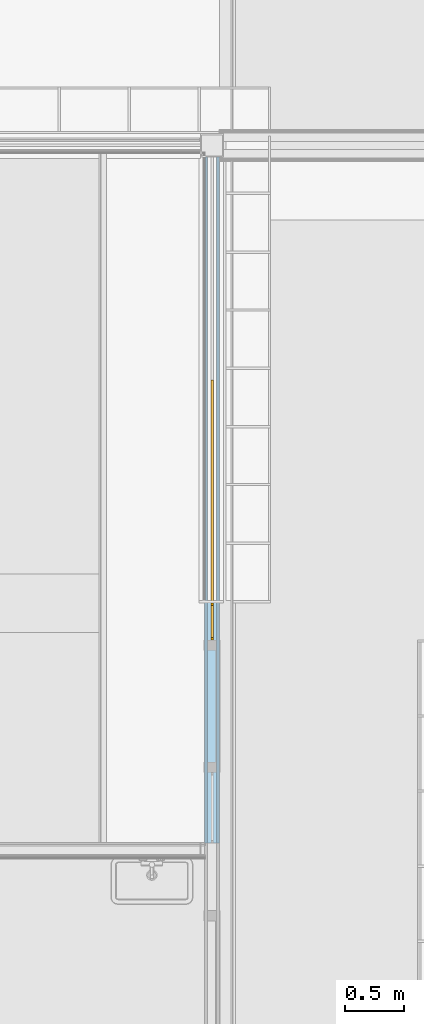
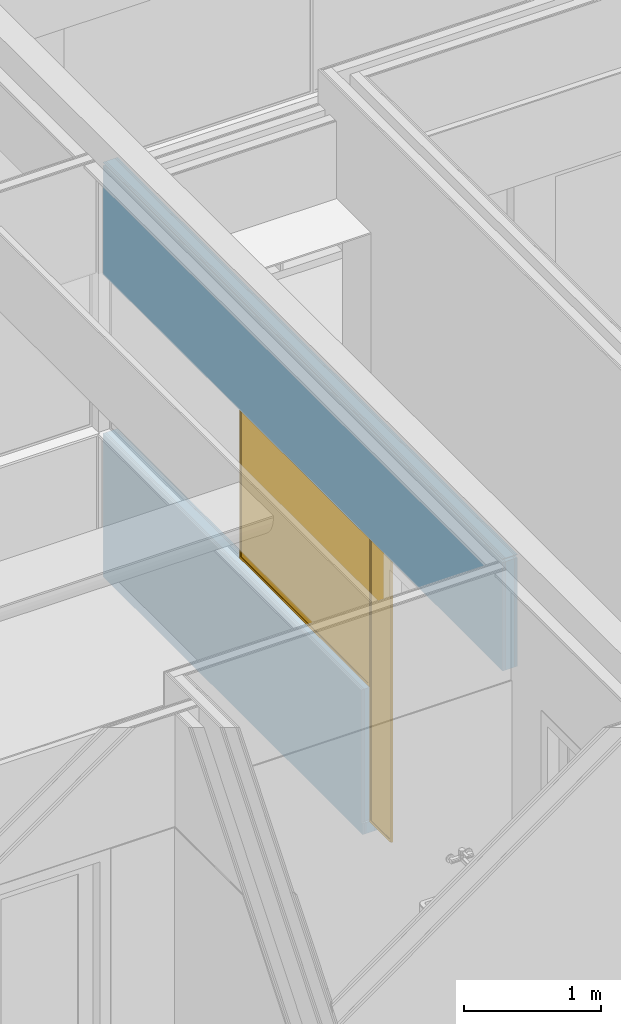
# One storey, part 81 of 165: 2 doors, 5 openings, 1 element without a shape of its own, plus 5 elements that do not belong to this part.
"""IFC2X3 building model written with IfcOpenShell, lengths in millimetres."""

from ifc_helpers import new_model, entity, si_unit, converted_unit, derived_unit, money_unit, direction, frame, origin_with_axes, place, context, subcontext, project, spatial, open_shell, faceted_brep, surface_model, material, type_object, element, fill, aggregate, save


model = new_model("IFC2X3")

# Units and contexts
model_context = context("Model", 3, precision=0.01, world=origin_with_axes(), true_north=direction((0.0, 1.0)))
body_context = subcontext(model_context, "Body", "Model", "MODEL_VIEW")
ifc_project = project(units=[si_unit("LENGTHUNIT", "METRE", prefix="MILLI"), si_unit("AREAUNIT", "SQUARE_METRE"), si_unit("VOLUMEUNIT", "CUBIC_METRE"), converted_unit("PLANEANGLEUNIT", "DEGREE", entity("IfcPlaneAngleMeasure", 0.0174532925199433), si_unit("PLANEANGLEUNIT", "RADIAN"), dimensions=[0, 0, 0, 0, 0, 0, 0]), money_unit("EUR"), converted_unit("TIMEUNIT", "Year", entity("IfcTimeMeasure", 31556926.0), si_unit("TIMEUNIT", "SECOND"), dimensions=[0, 0, 1, 0, 0, 0, 0]), si_unit("MASSUNIT", "GRAM", prefix="KILO"), si_unit("THERMODYNAMICTEMPERATUREUNIT", "DEGREE_CELSIUS"), si_unit("LUMINOUSINTENSITYUNIT", "LUMEN"), si_unit("ENERGYUNIT", "JOULE", prefix="MEGA"), derived_unit("THERMALCONDUCTANCEUNIT", [(si_unit("POWERUNIT", "WATT"), 1), (si_unit("LENGTHUNIT", "METRE"), -1), (si_unit("THERMODYNAMICTEMPERATUREUNIT", "KELVIN"), -1)]), derived_unit("SPECIFICHEATCAPACITYUNIT", [(si_unit("ENERGYUNIT", "JOULE"), 1), (si_unit("MASSUNIT", "GRAM", prefix="KILO"), -1), (si_unit("THERMODYNAMICTEMPERATUREUNIT", "KELVIN"), -1)]), derived_unit("MASSDENSITYUNIT", [(si_unit("MASSUNIT", "GRAM", prefix="KILO"), 1), (si_unit("VOLUMEUNIT", "CUBIC_METRE"), -1)])], contexts=[model_context])

# Site, building, storey
site_placement = place(None, origin_with_axes())
site = spatial("IfcSite", under=ifc_project, at=site_placement, Name="Site", CompositionType="ELEMENT")
building_placement = place(site_placement, origin_with_axes())
building = spatial("IfcBuilding", under=site, at=building_placement, Name="Naam gebouw", CompositionType="ELEMENT")
storey_placement = place(building_placement, origin_with_axes())
storey = spatial("IfcBuildingStorey", under=building, at=storey_placement, Name="Begane grond", CompositionType="ELEMENT", Elevation=0.0)

# Door
door_style = type_object("IfcDoorStyle", Name="R1 26", ConstructionType="NOTDEFINED", OperationType="SINGLE_SWING_RIGHT", ParameterTakesPrecedence=False, Sizeable=False)
proxy_placement = place(storey_placement, frame((8850.000000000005, 19449.9998112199, -100.0), z_axis=(0.0, 0.0, 1.0), x_axis=(0.0, -1.0, 0.0)))
opening_1_placement = place(proxy_placement, frame((2950.00000000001, 0.0, 1300.0), z_axis=(0.0, 0.0, 1.0), x_axis=(1.0, 0.0, 0.0)))
door_1_placement = place(opening_1_placement, frame((-949.9999999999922, 0.0, 0.0), z_axis=(0.0, 0.0, 1.0), x_axis=(1.0, 0.0, 0.0)))
door_1 = element("IfcDoor", 1, at=door_1_placement, inside=storey, type_object=door_style, Name="_C.02", ObjectType="DOOR", OverallHeight=1400.0, OverallWidth=1900.0, context=body_context, shape_type="SurfaceModel", body=[
    faceted_brep([(0.0, -7.500000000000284, 20.00000000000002), (19.99999999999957, -7.500000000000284, 20.00000000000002), (19.99999999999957, 12.49999999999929, 20.00000000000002), (0.0, 12.49999999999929, 20.00000000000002), (1879.999999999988, -7.500000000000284, 20.00000000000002), (0.0, -7.500000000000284, 0.0), (1899.999999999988, -7.500000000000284, 0.0), (1899.999999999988, -7.500000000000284, 20.00000000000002), (1879.999999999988, 12.49999999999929, 20.00000000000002), (1899.999999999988, 12.49999999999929, 20.00000000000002), (1899.999999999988, 12.49999999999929, 0.0), (0.0, 12.49999999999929, 0.0)], [[[0, 1, 2, 3]], [[4, 1, 0, 5, 6, 7]], [[1, 4, 8, 2]], [[3, 2, 8, 9, 10, 11]], [[5, 0, 3, 11]], [[6, 5, 11, 10]], [[7, 6, 10, 9]], [[4, 7, 9, 8]]]),
    faceted_brep([(19.99999999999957, -7.500000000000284, 1380.0), (19.99999999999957, 12.49999999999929, 1380.0), (0.0, 12.49999999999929, 1380.0), (0.0, -7.500000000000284, 1380.0), (19.99999999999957, -7.500000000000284, 20.00000000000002), (19.99999999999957, 12.49999999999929, 20.00000000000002), (0.0, 12.49999999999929, 20.00000000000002), (0.0, -7.500000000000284, 20.00000000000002)], [[[0, 1, 2, 3]], [[4, 5, 1, 0]], [[1, 5, 6, 2]], [[3, 2, 6, 7]], [[0, 3, 7, 4]], [[7, 6, 5, 4]]]),
    faceted_brep([(1879.999999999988, -7.500000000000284, 20.00000000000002), (1879.999999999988, 12.49999999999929, 20.00000000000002), (1899.999999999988, 12.49999999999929, 20.00000000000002), (1899.999999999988, -7.500000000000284, 20.00000000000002), (1879.999999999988, -7.500000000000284, 1380.0), (1879.999999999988, 12.49999999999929, 1380.0), (1899.999999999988, 12.49999999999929, 1380.0), (1899.999999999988, -7.500000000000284, 1380.0)], [[[0, 1, 2, 3]], [[4, 5, 1, 0]], [[1, 5, 6, 2]], [[3, 2, 6, 7]], [[0, 3, 7, 4]], [[7, 6, 5, 4]]]),
    faceted_brep([(1879.999999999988, -7.500000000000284, 1380.0), (1879.999999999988, 12.49999999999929, 1380.0), (1899.999999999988, 12.49999999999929, 1380.0), (1899.999999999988, -7.500000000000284, 1380.0), (19.99999999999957, -7.500000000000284, 1380.0), (19.99999999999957, 12.49999999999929, 1380.0), (0.0, 12.49999999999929, 1380.0), (0.0, 12.49999999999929, 1400.0), (1899.999999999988, 12.49999999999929, 1400.0), (1899.999999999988, -7.500000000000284, 1400.0), (0.0, -7.500000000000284, 1400.0), (0.0, -7.500000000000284, 1380.0)], [[[0, 1, 2, 3]], [[4, 5, 1, 0]], [[1, 5, 6, 7, 8, 2]], [[3, 2, 8, 9]], [[0, 3, 9, 10, 11, 4]], [[11, 6, 5, 4]], [[10, 7, 6, 11]], [[9, 8, 7, 10]]]),
    surface_model("IfcShellBasedSurfaceModel", [(19.99999999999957, -2.500000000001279, 20.00000000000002), (1879.999999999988, -2.500000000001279, 20.00000000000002), (1879.999999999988, -2.500000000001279, 1380.0), (19.99999999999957, -2.500000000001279, 1380.0)], [open_shell([[[0, 1, 2, 3]]])]),
    surface_model("IfcShellBasedSurfaceModel", [(19.99999999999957, 7.500000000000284, 20.00000000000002), (19.99999999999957, 7.499999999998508, 1380.0), (1879.999999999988, 7.499999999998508, 1380.0), (1879.999999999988, 7.499999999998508, 20.00000000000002)], [open_shell([[[0, 1, 2, 3]]])]),
])

opening_3_placement = place(proxy_placement, frame((4057.499889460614, 0.0, 100.0), z_axis=(0.0, 0.0, 1.0), x_axis=(1.0, 0.0, 0.0)))
door_2_placement = place(opening_3_placement, frame((-157.4998894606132, 0.0, 0.0), z_axis=(0.0, 0.0, 1.0), x_axis=(1.0, 0.0, 0.0)))
door_2 = element("IfcDoor", 2, at=door_2_placement, inside=storey, type_object=door_style, Name="_B.15", ObjectType="DOOR", OverallHeight=2600.0, OverallWidth=315.0, context=body_context, shape_type="SurfaceModel", body=[
    faceted_brep([(0.0, 12.50000000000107, 2580.0), (0.0, -7.499999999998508, 2580.0), (20.00000000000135, -7.499999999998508, 2580.0), (20.00000000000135, 12.50000000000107, 2580.0), (0.0, 12.50000000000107, 20.00000000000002), (0.0, -7.499999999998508, 20.00000000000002), (20.00000000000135, -7.499999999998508, 20.00000000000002), (20.00000000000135, 12.50000000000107, 20.00000000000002)], [[[0, 1, 2, 3]], [[4, 5, 1, 0]], [[5, 6, 2, 1]], [[3, 2, 6, 7]], [[4, 0, 3, 7]], [[7, 6, 5, 4]]]),
    faceted_brep([(0.0, -7.499999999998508, 20.00000000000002), (20.00000000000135, -7.499999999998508, 20.00000000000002), (20.00000000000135, 12.50000000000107, 20.00000000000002), (0.0, 12.50000000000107, 20.00000000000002), (294.9997789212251, -7.499999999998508, 20.00000000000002), (0.0, -7.499999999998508, 0.0), (314.9997789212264, -7.499999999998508, 0.0), (314.9997789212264, -7.499999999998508, 20.00000000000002), (294.9997789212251, 12.50000000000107, 20.00000000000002), (314.9997789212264, 12.50000000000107, 20.00000000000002), (314.9997789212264, 12.50000000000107, 0.0), (0.0, 12.50000000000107, 0.0)], [[[0, 1, 2, 3]], [[4, 1, 0, 5, 6, 7]], [[1, 4, 8, 2]], [[3, 2, 8, 9, 10, 11]], [[5, 0, 3, 11]], [[6, 5, 11, 10]], [[7, 6, 10, 9]], [[4, 7, 9, 8]]]),
    faceted_brep([(294.9997789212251, -7.499999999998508, 20.0), (294.9997789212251, 12.50000000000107, 20.0), (314.9997789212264, 12.50000000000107, 20.0), (314.9997789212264, -7.499999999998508, 20.0), (294.9997789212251, -7.499999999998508, 2580.0), (294.9997789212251, 12.50000000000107, 2580.0), (314.9997789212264, 12.50000000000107, 2580.0), (314.9997789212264, -7.499999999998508, 2580.0)], [[[0, 1, 2, 3]], [[4, 5, 1, 0]], [[1, 5, 6, 2]], [[3, 2, 6, 7]], [[0, 3, 7, 4]], [[7, 6, 5, 4]]]),
    faceted_brep([(294.9997789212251, -7.499999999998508, 2580.0), (294.9997789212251, 12.50000000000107, 2580.0), (314.9997789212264, 12.50000000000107, 2580.0), (314.9997789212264, -7.499999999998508, 2580.0), (20.00000000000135, -7.499999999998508, 2580.0), (20.00000000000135, 12.50000000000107, 2580.0), (0.0, 12.50000000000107, 2580.0), (0.0, 12.50000000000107, 2600.0), (314.9997789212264, 12.50000000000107, 2600.0), (314.9997789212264, -7.499999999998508, 2600.0), (0.0, -7.499999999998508, 2600.0), (0.0, -7.499999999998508, 2580.0)], [[[0, 1, 2, 3]], [[4, 5, 1, 0]], [[1, 5, 6, 7, 8, 2]], [[3, 2, 8, 9]], [[0, 3, 9, 10, 11, 4]], [[11, 6, 5, 4]], [[10, 7, 6, 11]], [[9, 8, 7, 10]]]),
    surface_model("IfcShellBasedSurfaceModel", [(20.00000000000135, -2.499999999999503, 20.0), (294.9997789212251, -2.499999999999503, 20.0), (294.9997789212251, -2.499999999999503, 2580.0), (20.00000000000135, -2.499999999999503, 2580.0)], [open_shell([[[0, 1, 2, 3]]])]),
    surface_model("IfcShellBasedSurfaceModel", [(20.00000000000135, 7.500000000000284, 20.0), (20.00000000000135, 7.500000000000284, 2580.0), (294.9997789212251, 7.500000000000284, 2580.0), (294.9997789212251, 7.500000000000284, 20.0)], [open_shell([[[0, 1, 2, 3]]])]),
])

# Proxy, opening
building_element_proxy_type = type_object("IfcBuildingElementProxyType", Name="22 Metal stud 125 gips 125", PredefinedType="NOTDEFINED")
proxy = element("IfcBuildingElementProxy", 3, at=proxy_placement, inside=storey, type_object=building_element_proxy_type, Name="_Wand-x")
opening_1 = element("IfcOpeningElement", 4, at=opening_1_placement, cuts=proxy, Name="_C.02", context=body_context, shape_type="Brep", body=[
    faceted_brep([(-949.9999999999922, 12.49999999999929, 0.0), (-949.9999999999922, 12.49999999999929, 1400.0), (-949.9999999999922, 63.49999999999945, 1400.0), (-949.9999999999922, 63.49999999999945, 0.0), (-949.9999999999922, -63.50000000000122, 0.0), (-949.9999999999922, -63.50000000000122, 1400.0), (949.9999999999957, 12.49999999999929, 1400.0), (949.9999999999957, 63.49999999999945, 1400.0), (949.9999999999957, -63.50000000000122, 1400.0), (949.9999999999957, 63.49999999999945, 0.0), (949.9999999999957, 12.49999999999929, 0.0), (949.9999999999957, -63.50000000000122, 0.0)], [[[0, 1, 2, 3]], [[1, 0, 4, 5]], [[6, 7, 2, 1, 5, 8]], [[7, 9, 3, 2]], [[0, 3, 9, 10, 11, 4]], [[5, 4, 11, 8]], [[6, 10, 9, 7]], [[10, 6, 8, 11]]]),
])

fill(opening_1, door_1)

# Opening
opening_2_placement = place(proxy_placement, frame((1050.000000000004, 0.0, 1300.0), z_axis=(0.0, 0.0, 1.0), x_axis=(1.0, 0.0, 0.0)))
element("IfcOpeningElement", 5, at=opening_2_placement, cuts=proxy, Name="_C.02", context=body_context, shape_type="Brep", body=[
    faceted_brep([(-950.00000000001, 12.49999999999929, 0.0), (-950.00000000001, 12.49999999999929, 1400.0), (-950.00000000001, 63.49999999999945, 1400.0), (-950.00000000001, 63.49999999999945, 0.0), (-950.00000000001, -63.50000000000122, 0.0), (-950.00000000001, -63.50000000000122, 1400.0), (950.00000000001, 12.49999999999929, 1400.0), (950.00000000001, 63.49999999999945, 1400.0), (950.00000000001, -63.50000000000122, 1400.0), (950.00000000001, 63.49999999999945, 0.0), (950.00000000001, 12.49999999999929, 0.0), (950.00000000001, -63.50000000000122, 0.0)], [[[0, 1, 2, 3]], [[1, 0, 4, 5]], [[6, 7, 2, 1, 5, 8]], [[7, 9, 3, 2]], [[0, 3, 9, 10, 11, 4]], [[5, 4, 11, 8]], [[6, 10, 9, 7]], [[10, 6, 8, 11]]]),
])

opening_3 = element("IfcOpeningElement", 6, at=opening_3_placement, cuts=proxy, Name="_B.15", context=body_context, shape_type="Brep", body=[
    faceted_brep([(-157.4998894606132, 12.50000000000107, -100.0000000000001), (-157.4998894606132, 12.50000000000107, 2600.0), (-157.4998894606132, 63.50000000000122, 2600.0), (-157.4998894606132, 63.50000000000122, -100.0000000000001), (-157.4998894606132, -63.49999999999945, -100.0000000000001), (-157.4998894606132, -63.49999999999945, 2600.0), (157.4998894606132, 12.50000000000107, 2600.0), (157.4998894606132, 63.50000000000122, 2600.0), (157.4998894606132, -63.49999999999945, 2600.0), (157.4998894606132, 63.50000000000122, -100.0000000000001), (157.4998894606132, 12.50000000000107, -100.0000000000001), (157.4998894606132, -63.49999999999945, -100.0000000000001)], [[[0, 1, 2, 3]], [[1, 0, 4, 5]], [[6, 7, 2, 1, 5, 8]], [[7, 9, 3, 2]], [[0, 3, 9, 10, 11, 4]], [[5, 4, 11, 8]], [[6, 10, 9, 7]], [[10, 6, 8, 11]]]),
])

fill(opening_3, door_2)

opening_4_placement = place(proxy_placement, frame((5644.999778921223, 0.0, 100.0), z_axis=(0.0, 0.0, 1.0), x_axis=(1.0, 0.0, 0.0)))
element("IfcOpeningElement", 7, at=opening_4_placement, cuts=proxy, Name="_B.05", context=body_context, shape_type="Brep", body=[
    faceted_brep([(-300.0000000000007, 12.49999999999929, -100.0000000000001), (-300.0000000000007, 12.49999999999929, 2600.0), (-300.0000000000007, 63.50000000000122, 2600.0), (-300.0000000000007, 63.50000000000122, -100.0000000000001), (-300.0000000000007, -63.49999999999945, -100.0000000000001), (-300.0000000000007, -63.49999999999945, 2600.0), (300.0000000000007, 12.49999999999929, 2600.0), (300.0000000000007, 63.50000000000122, 2600.0), (300.0000000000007, -63.49999999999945, 2600.0), (300.0000000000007, 63.50000000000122, -100.0000000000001), (300.0000000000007, 12.49999999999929, -100.0000000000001), (300.0000000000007, -63.49999999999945, -100.0000000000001)], [[[0, 1, 2, 3]], [[1, 0, 4, 5]], [[6, 7, 2, 1, 5, 8]], [[7, 9, 3, 2]], [[0, 3, 9, 10, 11, 4]], [[5, 4, 11, 8]], [[6, 10, 9, 7]], [[10, 6, 8, 11]]]),
])

opening_5_placement = place(proxy_placement, frame((4779.999778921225, 0.0, 100.0), z_axis=(0.0, 0.0, 1.0), x_axis=(1.0, 0.0, 0.0)))
element("IfcOpeningElement", 8, at=opening_5_placement, cuts=proxy, Name="_01.01", context=body_context, shape_type="Brep", body=[
    faceted_brep([(564.9999999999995, 63.50000000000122, 2600.0), (564.9999999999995, 63.50000000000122, -100.0000000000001), (-564.9999999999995, 63.49999999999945, -100.0000000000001), (-564.9999999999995, 63.49999999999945, 2600.0), (564.9999999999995, -63.49999999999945, 2600.0), (564.9999999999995, -63.49999999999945, -100.0000000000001), (-564.9999999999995, -63.50000000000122, -100.0000000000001), (-564.9999999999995, -63.50000000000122, 2600.0)], [[[0, 1, 2, 3]], [[4, 5, 1, 0]], [[5, 6, 2, 1]], [[6, 7, 3, 2]], [[7, 4, 0, 3]], [[6, 5, 4, 7]]]),
])

# Building element part
ifc_material_1 = material(Name="Gipsplaat")
building_element_part_1_placement = place(proxy_placement, origin_with_axes())
building_element_part_1 = element("IfcBuildingElementPart", 9, at=building_element_part_1_placement, material=ifc_material_1, Name="Gipsplaat", context=body_context, shape_type="Brep", body=[
    faceted_brep([(3880.004312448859, 50.00000000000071, 1280.0), (3880.004336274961, 62.5, 1280.0), (99.99999999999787, 62.5, 1280.0), (99.99999999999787, 50.00000000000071, 1280.0), (3880.004336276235, 62.5, 100.0), (3880.004312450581, 50.00000000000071, 100.0), (3900.004336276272, 62.49999999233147, 100.0), (3900.000000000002, 62.5, 0.0), (100.0000000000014, 62.5, 0.0), (100.0000000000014, 50.00000000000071, 0.0), (3900.000000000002, 49.99999999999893, 0.0), (3900.004312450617, 49.99999999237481, 100.0)], [[[0, 1, 2, 3]], [[4, 1, 0, 5]], [[4, 6, 7, 8, 2, 1]], [[9, 3, 2, 8]], [[5, 0, 3, 9, 10, 11]], [[6, 4, 5, 11]], [[6, 11, 10, 7]], [[7, 10, 9, 8]]]),
    faceted_brep([(5944.999778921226, 62.50000000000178, 2700.0), (99.99999999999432, 62.5, 2700.0), (100.0000000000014, 62.5, 3670.000002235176), (5944.999778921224, 62.50000000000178, 3670.000002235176), (5944.999778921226, 50.00000000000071, 2700.0), (99.99999999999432, 50.00000000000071, 2700.0), (100.0000000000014, 50.00000000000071, 3670.000002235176), (5944.999778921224, 50.00000000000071, 3670.000002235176)], [[[0, 1, 2, 3]], [[4, 5, 1, 0]], [[2, 1, 5, 6]], [[2, 6, 7, 3]], [[0, 3, 7, 4]], [[5, 4, 7, 6]]]),
    faceted_brep([(100.0000000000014, 62.5, 3695.000002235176), (100.0000000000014, 62.5, 3699.999999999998), (5944.999778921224, 62.50000000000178, 3700.0), (5944.999778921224, 62.50000000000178, 3695.000002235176), (100.0000000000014, 50.00000000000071, 3699.999999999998), (100.0000000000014, 50.00000000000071, 3695.000002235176), (5944.999778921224, 50.00000000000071, 3700.0), (5944.999778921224, 50.00000000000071, 3695.000002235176)], [[[0, 1, 2, 3]], [[4, 1, 0, 5]], [[1, 4, 6, 2]], [[6, 7, 3, 2]], [[5, 0, 3, 7]], [[4, 5, 7, 6]]]),
])

ifc_material_2 = material(Name="ALG - LICHTE SCHEIDINGSWAND")
building_element_part_2_placement = place(proxy_placement, origin_with_axes())
building_element_part_2 = element("IfcBuildingElementPart", 10, at=building_element_part_2_placement, material=ifc_material_2, Name="ALG - LICHTE SCHEIDINGSWAND", context=body_context, shape_type="Brep", body=[
    faceted_brep([(3880.004145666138, -37.49999999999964, 1280.0), (3880.004288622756, 37.49999999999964, 1280.0), (99.99999999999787, 37.49999999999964, 1280.0), (99.99999999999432, -37.49999999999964, 1280.0), (3880.004288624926, 37.49999999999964, 100.0), (3880.004145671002, -37.49999999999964, 100.0), (3900.004288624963, 37.49999999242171, 100.0), (3900.000000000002, 37.49999999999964, 0.0), (100.0000000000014, 37.49999999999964, 0.0), (100.0000000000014, -37.49999999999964, 0.0), (3900.000000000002, -37.50000000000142, 0.0), (3900.004145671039, -37.50000000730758, 100.0)], [[[0, 1, 2, 3]], [[4, 1, 0, 5]], [[4, 6, 7, 8, 2, 1]], [[9, 3, 2, 8]], [[5, 0, 3, 9, 10, 11]], [[6, 4, 5, 11]], [[6, 11, 10, 7]], [[10, 9, 8, 7]]]),
    faceted_brep([(5944.999778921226, 37.50000000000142, 2700.0), (99.99999999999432, 37.49999999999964, 2700.0), (100.0000000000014, 37.49999999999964, 3670.000002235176), (5944.999778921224, 37.50000000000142, 3670.000002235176), (5944.999778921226, -37.49999999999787, 2700.0), (99.99999999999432, -37.49999999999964, 2700.0), (100.0000000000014, -37.49999999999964, 3670.000002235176), (5944.999778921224, -37.49999999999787, 3670.000002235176)], [[[0, 1, 2, 3]], [[4, 5, 1, 0]], [[2, 1, 5, 6]], [[2, 6, 7, 3]], [[3, 7, 4, 0]], [[5, 4, 7, 6]]]),
    faceted_brep([(100.0000000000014, 37.49999999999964, 3695.000002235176), (100.0000000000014, 37.49999999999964, 3699.999999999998), (5944.999778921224, 37.50000000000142, 3700.0), (5944.999778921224, 37.50000000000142, 3695.000002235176), (100.0000000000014, -37.49999999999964, 3699.999999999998), (100.0000000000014, -37.49999999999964, 3695.000002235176), (5944.999778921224, -37.49999999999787, 3700.0), (5944.999778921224, -37.49999999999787, 3695.000002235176)], [[[0, 1, 2, 3]], [[4, 1, 0, 5]], [[1, 4, 6, 2]], [[6, 7, 3, 2]], [[5, 0, 3, 7]], [[4, 5, 7, 6]]]),
])

building_element_part_3_placement = place(proxy_placement, origin_with_axes())
building_element_part_3 = element("IfcBuildingElementPart", 11, at=building_element_part_3_placement, material=ifc_material_1, Name="Gipsplaat", context=body_context, shape_type="Brep", body=[
    faceted_brep([(3880.004288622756, 37.49999999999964, 1280.0), (3880.004312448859, 50.00000000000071, 1280.0), (99.99999999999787, 50.00000000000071, 1280.0), (99.99999999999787, 37.49999999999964, 1280.0), (3880.004312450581, 50.00000000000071, 100.0), (3880.004288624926, 37.49999999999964, 100.0), (3900.004312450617, 49.99999999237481, 100.0), (3900.000000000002, 49.99999999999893, 0.0), (100.0000000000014, 50.00000000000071, 0.0), (100.0000000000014, 37.49999999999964, 0.0), (3900.000000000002, 37.49999999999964, 0.0), (3900.004288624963, 37.49999999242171, 100.0)], [[[0, 1, 2, 3]], [[4, 1, 0, 5]], [[4, 6, 7, 8, 2, 1]], [[9, 3, 2, 8]], [[5, 0, 3, 9, 10, 11]], [[6, 4, 5, 11]], [[6, 11, 10, 7]], [[7, 10, 9, 8]]]),
    faceted_brep([(5944.999778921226, 50.00000000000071, 2700.0), (99.99999999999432, 50.00000000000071, 2700.0), (100.0000000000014, 50.00000000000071, 3670.000002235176), (5944.999778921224, 50.00000000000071, 3670.000002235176), (5944.999778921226, 37.50000000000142, 2700.0), (99.99999999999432, 37.49999999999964, 2700.0), (100.0000000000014, 37.49999999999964, 3670.000002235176), (5944.999778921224, 37.50000000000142, 3670.000002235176)], [[[0, 1, 2, 3]], [[4, 5, 1, 0]], [[2, 1, 5, 6]], [[2, 6, 7, 3]], [[0, 3, 7, 4]], [[5, 4, 7, 6]]]),
    faceted_brep([(100.0000000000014, 50.00000000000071, 3695.000002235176), (100.0000000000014, 50.00000000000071, 3699.999999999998), (5944.999778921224, 50.00000000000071, 3700.0), (5944.999778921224, 50.00000000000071, 3695.000002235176), (100.0000000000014, 37.49999999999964, 3699.999999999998), (100.0000000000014, 37.49999999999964, 3695.000002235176), (5944.999778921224, 37.50000000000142, 3700.0), (5944.999778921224, 37.50000000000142, 3695.000002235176)], [[[0, 1, 2, 3]], [[4, 1, 0, 5]], [[1, 4, 6, 2]], [[6, 7, 3, 2]], [[5, 0, 3, 7]], [[4, 5, 7, 6]]]),
])

building_element_part_4_placement = place(proxy_placement, origin_with_axes())
building_element_part_4 = element("IfcBuildingElementPart", 12, at=building_element_part_4_placement, material=ifc_material_1, Name="Gipsplaat", context=body_context, shape_type="Brep", body=[
    faceted_brep([(3880.004098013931, -62.5, 1280.0), (3880.004121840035, -50.00000000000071, 1280.0), (99.99999999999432, -50.00000000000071, 1280.0), (99.99999999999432, -62.5, 1280.0), (3880.004121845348, -50.00000000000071, 100.0), (3880.004098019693, -62.5, 100.0), (3900.004121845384, -50.00000000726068, 100.0), (3900.000000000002, -50.00000000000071, 0.0), (100.0000000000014, -50.00000000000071, 0.0), (100.0000000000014, -62.5, 0.0), (3900.000000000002, -62.5, 0.0), (3900.00409801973, -62.50000000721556, 100.0)], [[[0, 1, 2, 3]], [[4, 1, 0, 5]], [[4, 6, 7, 8, 2, 1]], [[9, 3, 2, 8]], [[5, 0, 3, 9, 10, 11]], [[6, 4, 5, 11]], [[6, 11, 10, 7]], [[7, 10, 9, 8]]]),
    faceted_brep([(5944.999778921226, -49.99999999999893, 2700.0), (99.99999999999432, -49.99999999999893, 2700.0), (100.0000000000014, -49.99999999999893, 3670.000002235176), (5944.999778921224, -49.99999999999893, 3670.000002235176), (5944.999778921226, -62.49999999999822, 2700.0), (99.99999999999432, -62.5, 2700.0), (100.0000000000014, -62.5, 3670.000002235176), (5944.999778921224, -62.49999999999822, 3670.000002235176)], [[[0, 1, 2, 3]], [[4, 5, 1, 0]], [[2, 1, 5, 6]], [[2, 6, 7, 3]], [[0, 3, 7, 4]], [[5, 4, 7, 6]]]),
    faceted_brep([(100.0000000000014, -49.99999999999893, 3695.000002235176), (100.0000000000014, -49.99999999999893, 3699.999999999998), (5944.999778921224, -49.99999999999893, 3700.0), (5944.999778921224, -49.99999999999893, 3695.000002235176), (100.0000000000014, -62.5, 3699.999999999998), (100.0000000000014, -62.5, 3695.000002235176), (5944.999778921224, -62.49999999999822, 3700.0), (5944.999778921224, -62.49999999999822, 3695.000002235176)], [[[0, 1, 2, 3]], [[4, 1, 0, 5]], [[1, 4, 6, 2]], [[6, 7, 3, 2]], [[5, 0, 3, 7]], [[4, 5, 7, 6]]]),
])

building_element_part_5_placement = place(proxy_placement, origin_with_axes())
building_element_part_5 = element("IfcBuildingElementPart", 13, at=building_element_part_5_placement, material=ifc_material_1, Name="Gipsplaat", context=body_context, shape_type="Brep", body=[
    faceted_brep([(3880.004121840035, -49.99999999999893, 1280.0), (3880.004145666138, -37.49999999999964, 1280.0), (99.99999999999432, -37.49999999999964, 1280.0), (99.99999999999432, -50.00000000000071, 1280.0), (3880.004145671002, -37.49999999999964, 100.0), (3880.004121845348, -49.99999999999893, 100.0), (3900.004145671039, -37.50000000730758, 100.0), (3900.000000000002, -37.50000000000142, 0.0), (100.0000000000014, -37.49999999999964, 0.0), (100.0000000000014, -50.00000000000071, 0.0), (3900.000000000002, -50.00000000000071, 0.0), (3900.004121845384, -50.00000000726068, 100.0)], [[[0, 1, 2, 3]], [[4, 1, 0, 5]], [[4, 6, 7, 8, 2, 1]], [[9, 3, 2, 8]], [[5, 0, 3, 9, 10, 11]], [[6, 4, 5, 11]], [[6, 11, 10, 7]], [[7, 10, 9, 8]]]),
    faceted_brep([(5944.999778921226, -37.49999999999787, 2700.0), (99.99999999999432, -37.49999999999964, 2700.0), (100.0000000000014, -37.49999999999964, 3670.000002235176), (5944.999778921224, -37.49999999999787, 3670.000002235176), (5944.999778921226, -49.99999999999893, 2700.0), (99.99999999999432, -49.99999999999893, 2700.0), (100.0000000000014, -49.99999999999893, 3670.000002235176), (5944.999778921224, -49.99999999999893, 3670.000002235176)], [[[0, 1, 2, 3]], [[4, 5, 1, 0]], [[2, 1, 5, 6]], [[2, 6, 7, 3]], [[0, 3, 7, 4]], [[5, 4, 7, 6]]]),
    faceted_brep([(100.0000000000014, -37.49999999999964, 3695.000002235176), (100.0000000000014, -37.49999999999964, 3699.999999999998), (5944.999778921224, -37.49999999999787, 3700.0), (5944.999778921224, -37.49999999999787, 3695.000002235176), (100.0000000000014, -49.99999999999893, 3699.999999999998), (100.0000000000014, -49.99999999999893, 3695.000002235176), (5944.999778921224, -49.99999999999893, 3700.0), (5944.999778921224, -49.99999999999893, 3695.000002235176)], [[[0, 1, 2, 3]], [[4, 1, 0, 5]], [[1, 4, 6, 2]], [[6, 7, 3, 2]], [[5, 0, 3, 7]], [[4, 5, 7, 6]]]),
])

aggregate(proxy, [building_element_part_1, building_element_part_2, building_element_part_3, building_element_part_4, building_element_part_5])

save(model, "model.ifc")
